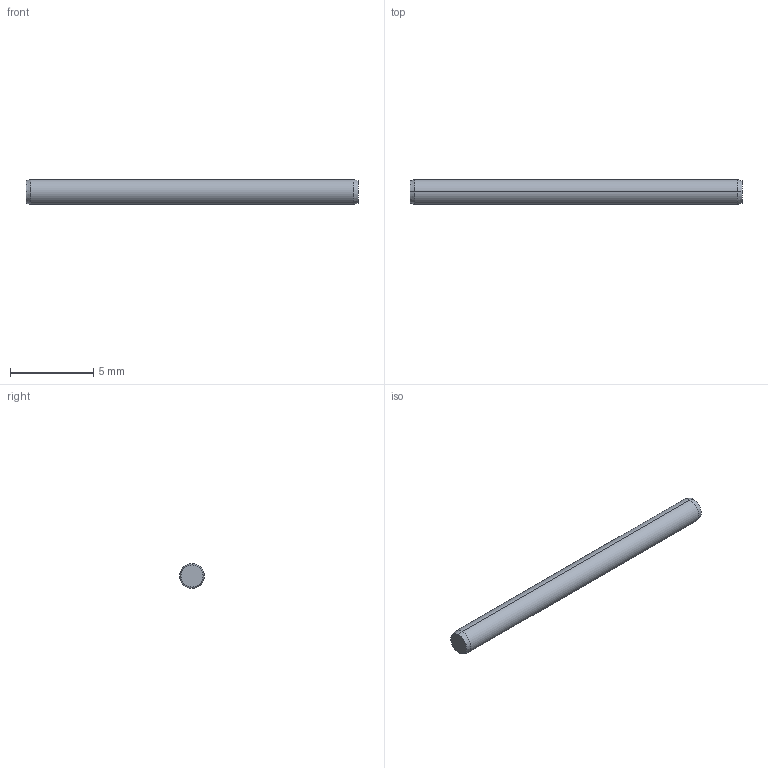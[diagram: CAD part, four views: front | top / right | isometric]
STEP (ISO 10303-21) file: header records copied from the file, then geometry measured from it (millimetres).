
FILE_DESCRIPTION (( 'STEP AP203' ), '1' );
FILE_NAME ('P1206.015-020.step', '2017-06-14T07:54:48', ( 'User' ), ( '' ), 'SwSTEP 2.0', 'SolidWorks 2009', '' );
FILE_SCHEMA (( 'CONFIG_CONTROL_DESIGN' ));
Length unit declared in the file: millimetre
Products named in the file (1): P1206.015-020
Bounding box: 20 x 1.5 x 1.5 mm (x, y, z)
Volume: 35.2 mm3; surface area: 97 mm2
Topology: 1 solids, 1 shells, 8 faces, 14 edges, 8 vertices
Faces by surface type: cone 4, cylinder 2, plane 2
Entity records: 271 total; most frequent: DIRECTION 40, CARTESIAN_POINT 31, ORIENTED_EDGE 28, AXIS2_PLACEMENT_3D 17, EDGE_CURVE 14, VERTEX_POINT 8, ADVANCED_FACE 8, EDGE_LOOP 8
